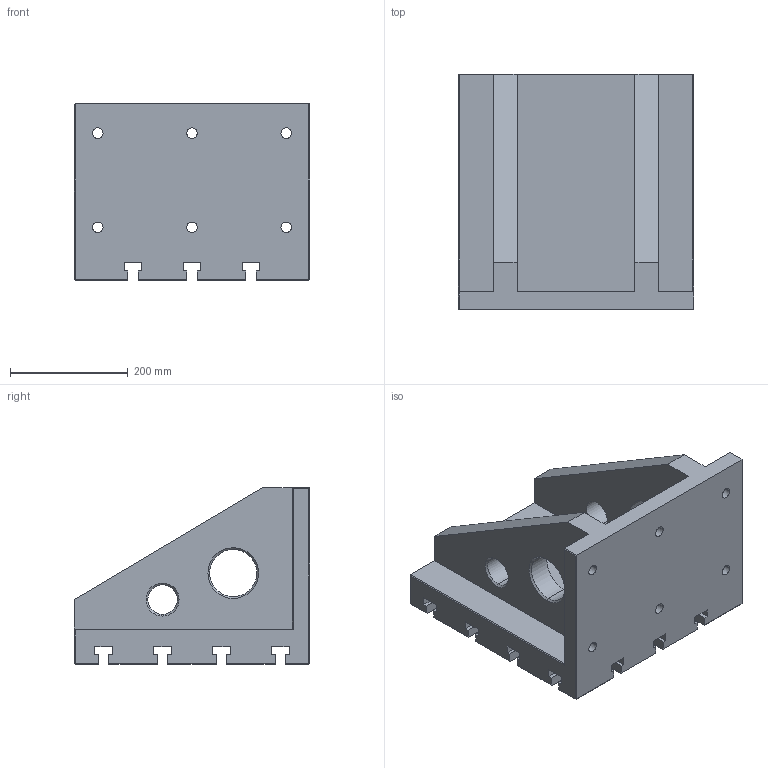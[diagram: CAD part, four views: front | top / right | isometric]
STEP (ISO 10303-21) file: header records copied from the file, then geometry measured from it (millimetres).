
FILE_DESCRIPTION((''),'2;1');
FILE_NAME('FG_WH_ANGPL_ANT18NP001','2026-05-22T12:04:42',('Admin'),(''),'CREO PARAMETRIC BY PTC INC, 2025010','CREO PARAMETRIC BY PTC INC, 2025010','');
FILE_SCHEMA(('CONFIG_CONTROL_DESIGN'));
Length unit declared in the file: millimetre
Products named in the file (1): FG_WH_ANGPL_ANT18NP001
Bounding box: 400 x 400 x 300 mm (x, y, z)
Volume: 14762197.1 mm3; surface area: 1030702.7 mm2
Topology: 1 solids, 1 shells, 255 faces, 691 edges, 456 vertices
Faces by surface type: plane 215, cylinder 32, cone 8
Entity records: 7983 total; most frequent: CARTESIAN_POINT 1402, ORIENTED_EDGE 1382, DIRECTION 1273, EDGE_CURVE 691, VECTOR 619, LINE 619, VERTEX_POINT 456, AXIS2_PLACEMENT_3D 327
